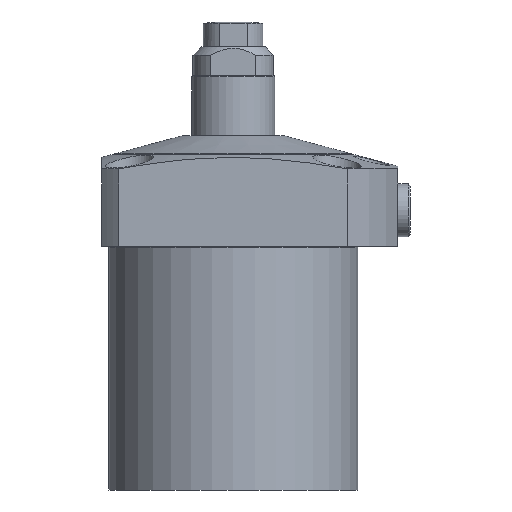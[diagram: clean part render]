
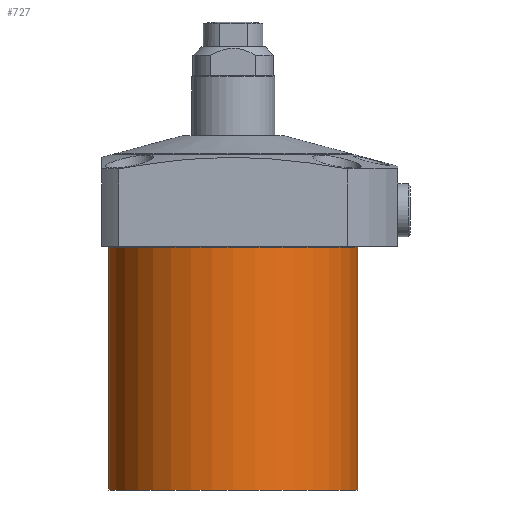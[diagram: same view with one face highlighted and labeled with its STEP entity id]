
A CAD part, front view. The second image highlights one B-rep face of the part: STEP entity #727.
In plain terms, the highlighted cylindrical face has radius 45 mm (diameter 90 mm), a partial arc.
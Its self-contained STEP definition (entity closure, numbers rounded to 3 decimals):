
#727=ADVANCED_FACE('',(#891),#834,.T.);
#834=CYLINDRICAL_SURFACE('',#2492,45.);
#891=FACE_OUTER_BOUND('',#1002,.T.);
#1002=EDGE_LOOP('',(#1501,#1502,#1503,#1504));
#1141=LINE('',#3502,#1265);
#1142=LINE('',#3504,#1266);
#1265=VECTOR('',#2780,1.);
#1266=VECTOR('',#2783,1.);
#1501=ORIENTED_EDGE('',*,*,#2113,.F.);
#1502=ORIENTED_EDGE('',*,*,#2158,.T.);
#1503=ORIENTED_EDGE('',*,*,#2115,.T.);
#1504=ORIENTED_EDGE('',*,*,#2108,.T.);
#1939=VERTEX_POINT('',#3491);
#1940=VERTEX_POINT('',#3492);
#1943=VERTEX_POINT('',#3500);
#1944=VERTEX_POINT('',#3501);
#2108=EDGE_CURVE('',#1939,#1940,#2325,.T.);
#2113=EDGE_CURVE('',#1944,#1940,#1141,.T.);
#2115=EDGE_CURVE('',#1943,#1939,#1142,.T.);
#2158=EDGE_CURVE('',#1944,#1943,#2346,.T.);
#2325=CIRCLE('',#2456,45.);
#2346=CIRCLE('',#2490,45.);
#2456=AXIS2_PLACEMENT_3D('',#3490,#2768,#2769);
#2490=AXIS2_PLACEMENT_3D('',#3710,#2852,#2853);
#2492=AXIS2_PLACEMENT_3D('',#3712,#2856,#2857);
#2768=DIRECTION('',(0.,0.,-1.));
#2769=DIRECTION('',(-1.,0.,0.));
#2780=DIRECTION('',(0.,0.,1.));
#2783=DIRECTION('',(0.,0.,1.));
#2852=DIRECTION('',(0.,0.,1.));
#2853=DIRECTION('',(1.,0.,0.));
#2856=DIRECTION('',(0.,0.,1.));
#2857=DIRECTION('',(-1.,0.,0.));
#3490=CARTESIAN_POINT('',(0.,0.,-0.4));
#3491=CARTESIAN_POINT('',(45.,0.,-0.4));
#3492=CARTESIAN_POINT('',(-45.,0.,-0.4));
#3500=CARTESIAN_POINT('',(45.,0.,-88.));
#3501=CARTESIAN_POINT('',(-45.,0.,-88.));
#3502=CARTESIAN_POINT('',(-45.,0.,100.));
#3504=CARTESIAN_POINT('',(45.,0.,100.));
#3710=CARTESIAN_POINT('',(0.,0.,-88.));
#3712=CARTESIAN_POINT('',(0.,0.,100.));
